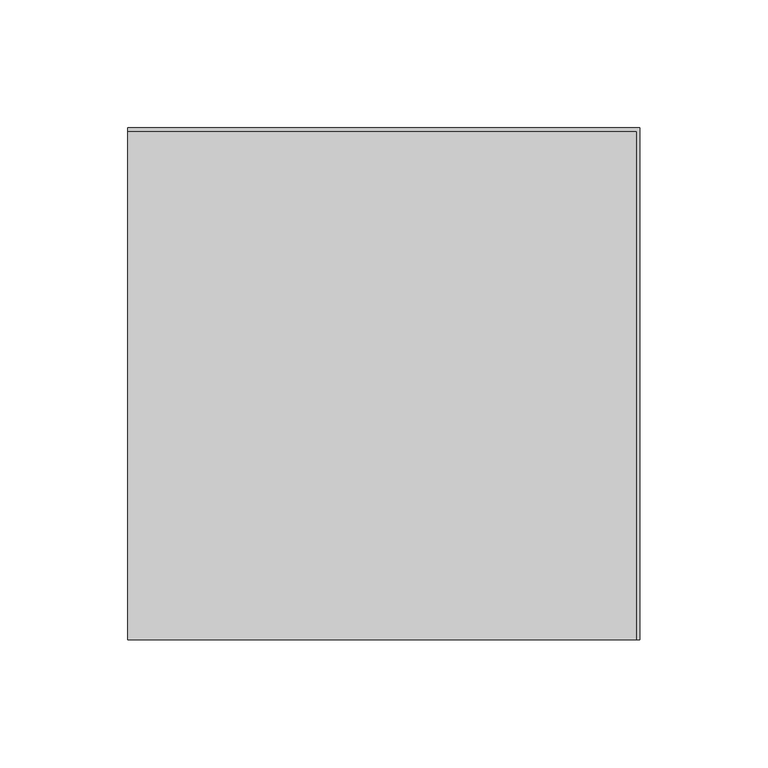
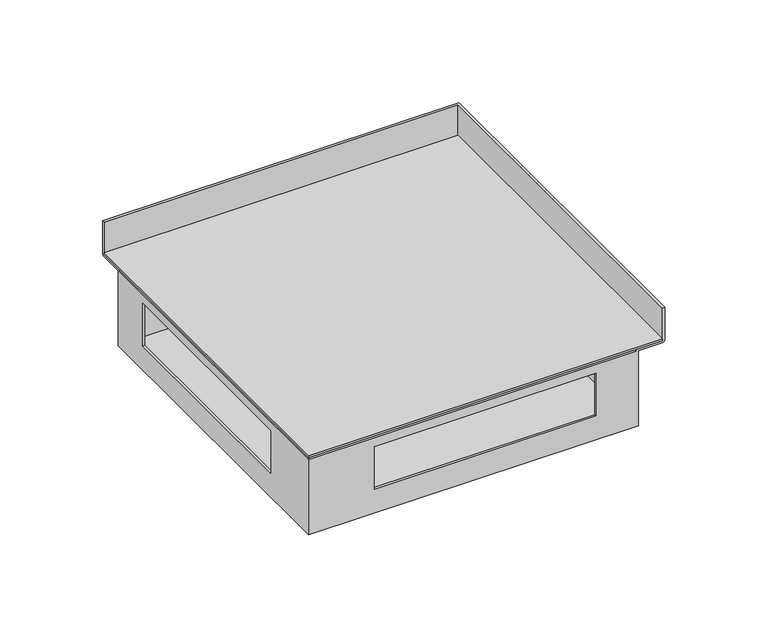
"""IFC4 building model written with IfcOpenShell, lengths in millimetres: proxy geometry, TECHNO_Угловой элемент_KVU : 200_065_90°."""

from ifc_helpers import new_model, si_unit, frame, origin, place, context, project, spatial, polyline, circle_curve, ellipse_curve, outline, extrude, source, transform, mapped, element, save
from ifc_brep_helpers import plane_surface, cylinder_surface, advanced_brep


def mechanical_equipment_6bd45da9(model_context):
    return source(origin(), model_context, "Body", "SolidModel", [
        extrude(outline(polyline([(0.0, 98.8), (198.8, 98.8), (198.8, -100.0), (0.0, -100.0), (0.0, 98.8)])), frame((0.0, 0.0, -19.3), z_axis=(0.0, 0.0, 1.0), x_axis=(1.0, 0.0, 0.0)), (0.0, 0.0, 1.0), 1.2),
        advanced_brep(
        [(1.2, 84.0, -63.8), (1.2, -98.8, -63.8), (184.0, -98.8, -63.8), (184.0, 84.0, -63.8), (0.0, 85.2, -65.0), (185.2, 85.2, -65.0), (185.2, -100.0, -65.0), (0.0, -100.0, -65.0), (0.0, 85.2, -20.5), (0.0, -100.0, -20.5), (0.0, 84.0, -20.5), (0.0, 85.2, -19.3), (0.0, 98.8, -19.3), (0.0, 98.8, 0.0), (0.0, 100.0, 0.0), (0.0, 100.0, -19.3), (0.0, 98.8, -20.5), (0.0, -63.0, -25.5), (0.0, -63.0, -50.8), (0.0, 61.4, -50.8), (0.0, 61.4, -25.5), (185.2, -100.0, -20.5), (198.8, -100.0, -20.5), (200.0, -100.0, -19.3), (200.0, -100.0, 0.0), (198.8, -100.0, 0.0), (198.8, -100.0, -19.3), (185.2, -100.0, -19.3), (184.0, -100.0, -20.5), (37.0, -100.0, -50.8), (37.0, -100.0, -25.5), (161.4, -100.0, -25.5), (161.4, -100.0, -50.8), (185.2, 85.2, -20.5), (1.2, 85.2, -19.3), (1.2, -98.8, -19.3), (185.2, -98.8, -19.3), (198.8, 98.8, -19.3), (185.2, -84.0, -19.3), (16.0, -84.0, -19.3), (16.0, 85.2, -19.3), (185.2, 85.2, -19.3), (16.0, -84.0, -20.5), (16.0, 84.0, -20.5), (184.0, -84.0, -20.5), (184.0, -98.8, -20.5), (1.2, -98.8, -20.5), (1.2, 84.0, -20.5), (1.2, -63.0, -50.8), (1.2, -63.0, -25.5), (1.2, 61.4, -25.5), (1.2, 61.4, -50.8), (37.0, -98.8, -25.5), (37.0, -98.8, -50.8), (161.4, -98.8, -50.8), (161.4, -98.8, -25.5), (200.0, 100.0, -19.3), (200.0, 100.0, 0.0), (198.8, 98.8, 0.0), (198.8, 98.8, -20.5), (184.0, 84.0, -20.5)],
        [
            (0, 1),
            (1, 2),
            (2, 3),
            (3, 0),
            (4, 5),
            (5, 6),
            (6, 7),
            (7, 4),
            (8, 4),
            (7, 9),
            (9, 10),
            (10, 11, circle_curve(frame((0.0, 85.2, -20.5), z_axis=(-1.0, 0.0, 0.0), x_axis=(0.0, -1.0, 0.0)), 1.2)),
            (11, 12),
            (12, 13),
            (13, 14),
            (14, 15),
            (15, 16, circle_curve(frame((0.0, 98.8, -19.3), z_axis=(-1.0, 0.0, 0.0), x_axis=(0.0, -1.0, 0.0)), 1.2)),
            (16, 8),
            (17, 18),
            (18, 19),
            (19, 20),
            (20, 17),
            (6, 21),
            (21, 22),
            (22, 23, circle_curve(frame((198.8, -100.0, -19.3), z_axis=(0.0, -1.0, 0.0), x_axis=(-1.0, 0.0, 0.0)), 1.2)),
            (23, 24),
            (24, 25),
            (25, 26),
            (26, 27),
            (27, 28, circle_curve(frame((185.2, -100.0, -20.5), z_axis=(0.0, -1.0, 0.0), x_axis=(-1.0, 0.0, 0.0)), 1.2)),
            (28, 9),
            (29, 30),
            (30, 31),
            (31, 32),
            (32, 29),
            (8, 33),
            (33, 5),
            (33, 21),
            (34, 35),
            (35, 36),
            (36, 27),
            (26, 37),
            (37, 12),
            (11, 34),
            (38, 39),
            (39, 40),
            (40, 41),
            (41, 38),
            (39, 42),
            (42, 43),
            (43, 40, circle_curve(frame((16.0, 85.2, -20.5), z_axis=(-1.0, 0.0, 0.0), x_axis=(0.0, -1.0, 0.0)), 1.2)),
            (38, 44, circle_curve(frame((185.2, -84.0, -20.5), z_axis=(0.0, -1.0, 0.0), x_axis=(-1.0, 0.0, 0.0)), 1.2)),
            (44, 42),
            (44, 45),
            (45, 46),
            (46, 47),
            (47, 43),
            (46, 1),
            (0, 47),
            (48, 49),
            (49, 50),
            (50, 51),
            (51, 48),
            (45, 2),
            (52, 53),
            (53, 54),
            (54, 55),
            (55, 52),
            (34, 10, ellipse_curve(frame((1.2, 85.2, -20.5), z_axis=(0.7071067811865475, -0.7071067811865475, 0.0), x_axis=(0.7071067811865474, 0.7071067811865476, 0.0)), 1.6970563, 1.2)),
            (9, 35, ellipse_curve(frame((1.2, -98.8, -20.5), z_axis=(-0.7071067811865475, 0.7071067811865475, 0.0), x_axis=(0.7071067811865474, 0.7071067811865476, 0.0)), 1.6970563, 1.2)),
            (28, 36, ellipse_curve(frame((185.2, -98.8, -20.5), z_axis=(-0.7071067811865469, 0.7071067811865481, 0.0), x_axis=(-0.7071067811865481, -0.7071067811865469, 0.0)), 1.6970563, 1.2)),
            (23, 56),
            (56, 57),
            (57, 24),
            (57, 14),
            (13, 58),
            (58, 25),
            (58, 37),
            (16, 59),
            (59, 22),
            (59, 56, ellipse_curve(frame((198.8, 98.8, -19.3), z_axis=(0.7071067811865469, -0.7071067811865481, 0.0), x_axis=(-0.7071067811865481, -0.7071067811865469, 0.0)), 1.6970563, 1.2)),
            (56, 15),
            (41, 60, ellipse_curve(frame((185.2, 85.2, -20.5), z_axis=(0.7071067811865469, -0.7071067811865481, 0.0), x_axis=(-0.7071067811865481, -0.7071067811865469, 0.0)), 1.6970563, 1.2)),
            (60, 44),
            (60, 3),
            (43, 60),
            (48, 18),
            (17, 49),
            (51, 19),
            (50, 20),
            (52, 30),
            (29, 53),
            (55, 31),
            (54, 32),
        ],
        [
            plane_surface(frame((0.0, 84.0, -63.8), z_axis=(0.0, 0.0, 1.0), x_axis=(0.0, -1.0, 0.0))),
            plane_surface(frame((0.0, 84.0, -65.0), z_axis=(0.0, 0.0, -1.0), x_axis=(0.0, 1.0, 0.0))),
            plane_surface(frame((0.0, 84.0, -63.8), z_axis=(-1.0, 0.0, 0.0), x_axis=(0.0, 0.0, -1.0))),
            plane_surface(frame((0.0, -100.0, -63.8), z_axis=(0.0, -1.0, 0.0), x_axis=(0.0, 0.0, -1.0))),
            plane_surface(frame((0.0, 85.2, -65.0), z_axis=(0.0, 1.0, 0.0), x_axis=(0.0, 0.0, -1.0))),
            plane_surface(frame((185.2, -100.0, -65.0), z_axis=(1.0, 0.0, 0.0), x_axis=(0.0, 0.0, -1.0))),
            plane_surface(frame((1.2, 85.2, -19.3), z_axis=(0.0, 0.0, 1.0), x_axis=(0.0, -1.0, 0.0))),
            plane_surface(frame((16.0, 85.2, -19.3), z_axis=(1.0, 0.0, 0.0), x_axis=(0.0, -1.0, 0.0))),
            plane_surface(frame((16.0, -84.0, -19.3), z_axis=(0.0, 1.0, 0.0), x_axis=(1.0, 0.0, 0.0))),
            plane_surface(frame((16.0, 85.2, -20.5), z_axis=(0.0, 0.0, -1.0), x_axis=(0.0, -1.0, 0.0))),
            plane_surface(frame((1.2, 85.2, -20.5), z_axis=(1.0, 0.0, 0.0), x_axis=(0.0, -1.0, 0.0))),
            plane_surface(frame((1.2, -98.8, -20.5), z_axis=(0.0, 1.0, 0.0), x_axis=(1.0, 0.0, 0.0))),
            cylinder_surface(frame((1.2, 85.2, -20.5), z_axis=(0.0, 1.0, 0.0), x_axis=(-1.0, 0.0, 0.0)), 1.2),
            cylinder_surface(frame((0.0, -98.8, -20.5), z_axis=(-1.0, 0.0, 0.0), x_axis=(0.0, -1.0, 0.0)), 1.2),
            plane_surface(frame((200.0, -100.0, -19.3), z_axis=(1.0, 0.0, 0.0), x_axis=(0.0, 1.0, 0.0))),
            plane_surface(frame((200.0, -100.0, 0.0), z_axis=(0.0, 0.0, 1.0), x_axis=(0.0, 1.0, 0.0))),
            plane_surface(frame((198.8, -100.0, 0.0), z_axis=(-1.0, 0.0, 0.0), x_axis=(0.0, 1.0, 0.0))),
            plane_surface(frame((185.2, -100.0, -20.5), z_axis=(0.0, 0.0, -1.0), x_axis=(0.0, 1.0, 0.0))),
            cylinder_surface(frame((198.8, -100.0, -19.3), z_axis=(0.0, -1.0, 0.0), x_axis=(-1.0, 0.0, 0.0)), 1.2),
            plane_surface(frame((200.0, 100.0, -19.3), z_axis=(0.0, 1.0, 0.0), x_axis=(-1.0, 0.0, 0.0))),
            plane_surface(frame((198.8, 98.8, 0.0), z_axis=(0.0, -1.0, 0.0), x_axis=(-1.0, 0.0, 0.0))),
            cylinder_surface(frame((100.0, 98.8, -19.3), z_axis=(1.0, 0.0, 0.0), x_axis=(0.0, -1.0, 0.0)), 1.2),
            cylinder_surface(frame((185.2, -100.0, -20.5), z_axis=(0.0, -1.0, 0.0), x_axis=(-1.0, 0.0, 0.0)), 1.2),
            plane_surface(frame((184.0, -100.0, -20.5), z_axis=(-1.0, 0.0, 0.0), x_axis=(0.0, 1.0, 0.0))),
            cylinder_surface(frame((100.0, 85.2, -20.5), z_axis=(1.0, 0.0, 0.0), x_axis=(0.0, -1.0, 0.0)), 1.2),
            plane_surface(frame((184.0, 84.0, -20.5), z_axis=(0.0, -1.0, 0.0), x_axis=(-1.0, 0.0, 0.0))),
            plane_surface(frame((1.2, -63.0, -25.5), z_axis=(0.0, 1.0, 0.0), x_axis=(-1.0, 0.0, 0.0))),
            plane_surface(frame((1.2, -63.0, -50.8), z_axis=(0.0, 0.0, 1.0), x_axis=(-1.0, 0.0, 0.0))),
            plane_surface(frame((1.2, 61.4, -50.8), z_axis=(0.0, -1.0, 0.0), x_axis=(-1.0, 0.0, 0.0))),
            plane_surface(frame((1.2, 61.4, -25.5), z_axis=(0.0, 0.0, -1.0), x_axis=(-1.0, 0.0, 0.0))),
            plane_surface(frame((37.0, -98.8, -50.8), z_axis=(1.0, 0.0, 0.0), x_axis=(0.0, -1.0, 0.0))),
            plane_surface(frame((37.0, -98.8, -25.5), z_axis=(0.0, 0.0, -1.0), x_axis=(0.0, -1.0, 0.0))),
            plane_surface(frame((161.4, -98.8, -25.5), z_axis=(-1.0, 0.0, 0.0), x_axis=(0.0, -1.0, 0.0))),
            plane_surface(frame((161.4, -98.8, -50.8), z_axis=(0.0, 0.0, 1.0), x_axis=(0.0, -1.0, 0.0))),
        ],
        [
            (0, [[1, 2, 3, 4]]),
            (1, [[5, 6, 7, 8]]),
            (2, [[9, -8, 10, 11, 12, 13, 14, 15, 16, 17, 18], [19, 20, 21, 22]]),
            (3, [[23, 24, 25, 26, 27, 28, 29, 30, 31, -10, -7], [32, 33, 34, 35]]),
            (4, [[-9, 36, 37, -5]]),
            (5, [[-23, -6, -37, 38]]),
            (6, [[39, 40, 41, -29, 42, 43, -13, 44], [45, 46, 47, 48]]),
            (7, [[-46, 49, 50, 51]]),
            (8, [[-45, 52, 53, -49]]),
            (9, [[-50, -53, 54, 55, 56, 57]]),
            (10, [[58, -1, 59, -56], [60, 61, 62, 63]]),
            (11, [[-58, -55, 64, -2], [65, 66, 67, 68]]),
            (12, [[-39, 69, -11, 70]]),
            (13, [[-40, -70, -31, 71]]),
            (14, [[-26, 72, 73, 74]]),
            (15, [[-27, -74, 75, -15, 76, 77]]),
            (16, [[-28, -77, 78, -42]]),
            (17, [[-24, -38, -36, -18, 79, 80]]),
            (18, [[-25, -80, 81, -72]]),
            (19, [[-73, 82, -16, -75]]),
            (20, [[-76, -14, -43, -78]]),
            (21, [[-79, -17, -82, -81]]),
            (22, [[-30, -41, -71]]),
            (22, [[83, 84, -52, -48]]),
            (23, [[85, -3, -64, -54, -84]]),
            (24, [[-12, -69, -44]]),
            (24, [[-83, -47, -51, 86]]),
            (25, [[-85, -86, -57, -59, -4]]),
            (26, [[87, -19, 88, -60]]),
            (27, [[-87, -63, 89, -20]]),
            (28, [[-89, -62, 90, -21]]),
            (29, [[-88, -22, -90, -61]]),
            (30, [[91, -32, 92, -65]]),
            (31, [[-91, -68, 93, -33]]),
            (32, [[-93, -67, 94, -34]]),
            (33, [[-92, -35, -94, -66]]),
        ],
    ),
    ])


if __name__ == "__main__":
    model = new_model("IFC4")
    model_context = context("Model", 3, world=origin())
    ifc_project = project(units=[si_unit("LENGTHUNIT", "METRE", prefix="MILLI")], contexts=[model_context])
    site = spatial("IfcSite", under=ifc_project)
    building = spatial("IfcBuilding", under=site)
    placement = place(None, origin())
    mechanical_equipment_shape = mechanical_equipment_6bd45da9(model_context)
    element("IfcBuildingElementProxy", 1, Name="TECHNO_Угловой элемент_KVU : 200_065_90°", ObjectType="TECHNO_Угловой элемент_KVU : 200_065_90°", at=placement, inside=building, context=model_context, shape_type="MappedRepresentation", body=[
        mapped(mechanical_equipment_shape, transform((0.0, 0.0, 0.0), x_axis=(1.0, 0.0, 0.0), y_axis=(0.0, 1.0, 0.0), z_axis=(0.0, 0.0, 1.0))),
    ])
    save(model, "model.ifc")
